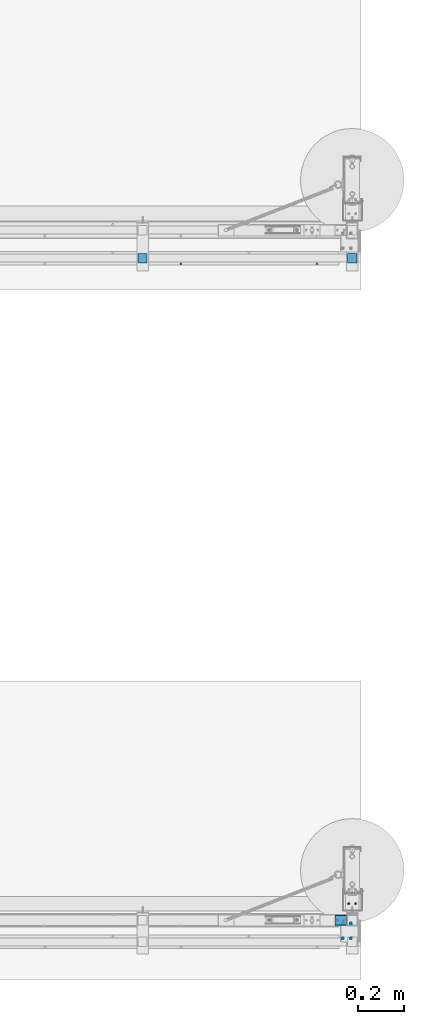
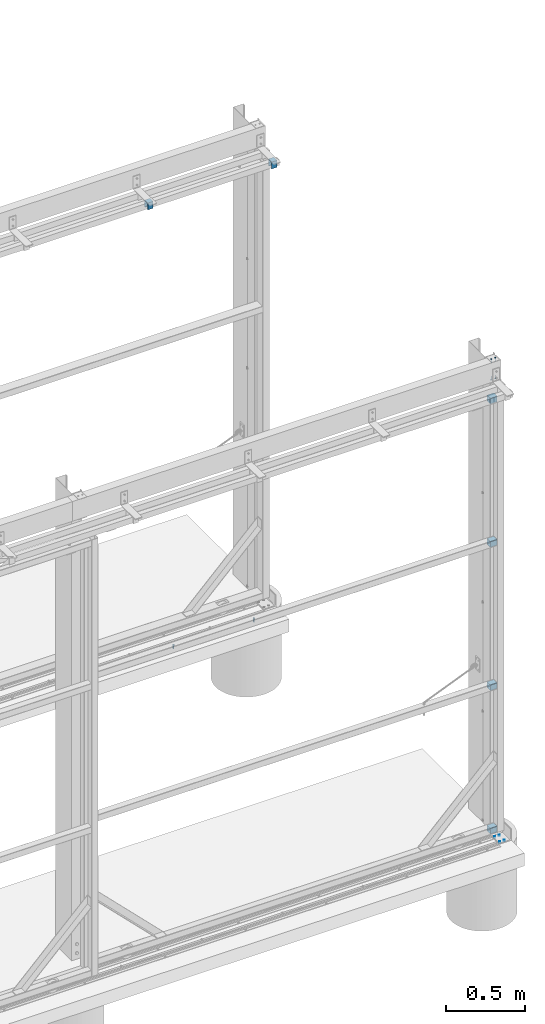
# One storey, part 65 of 91: 6 discrete accessories, 6 mechanical fasteners, 6 elements without a shape of their own.
"""IFC2X3 building model written with IfcOpenShell, lengths in millimetres."""

from ifc_helpers import new_model, si_unit, frame, origin_with_axes, origin_2d_with_axis, place, context, subcontext, project, spatial, polyline, hollow_rectangle, circle, c_section, outline, extrude, source, transform, mapped, material, type_object, element, aggregate, save


model = new_model("IFC2X3")

# Units and contexts
model_context = context("Model", 3, precision=1e-05, world=origin_with_axes())
body_context = subcontext(model_context, "Body", "Model", "MODEL_VIEW")
ifc_project = project(units=[si_unit("LENGTHUNIT", "METRE", prefix="MILLI"), si_unit("AREAUNIT", "SQUARE_METRE"), si_unit("VOLUMEUNIT", "CUBIC_METRE"), si_unit("MASSUNIT", "GRAM", prefix="KILO"), si_unit("TIMEUNIT", "SECOND"), si_unit("PLANEANGLEUNIT", "RADIAN"), si_unit("SOLIDANGLEUNIT", "STERADIAN"), si_unit("THERMODYNAMICTEMPERATUREUNIT", "DEGREE_CELSIUS"), si_unit("LUMINOUSINTENSITYUNIT", "LUMEN")], contexts=[model_context])

# Site, building, storey
site_placement = place(None, origin_with_axes())
site = spatial("IfcSite", under=ifc_project, at=site_placement, Name="Undefined", CompositionType="ELEMENT")
building_placement = place(site_placement, origin_with_axes())
building = spatial("IfcBuilding", under=site, at=building_placement, Name="Undefined", CompositionType="ELEMENT")
storey_placement = place(building_placement, origin_with_axes())
storey = spatial("IfcBuildingStorey", under=building, at=storey_placement, Name="Undefined", CompositionType="ELEMENT", Elevation=0.0)

# Assembly, mechanical fastener
assembly_1_placement = place(storey_placement, origin_with_axes())
assembly_1 = element("IfcElementAssembly", 1, at=assembly_1_placement, inside=storey, Name="DOOR STOPPER", AssemblyPlace="NOTDEFINED", PredefinedType="RIGID_FRAME")
ifc_material_1 = material(Name="TEK_11TPIM")
discrete_accessory_type_1 = type_object("IfcDiscreteAccessoryType", Name="Bolt assembly")
shared_shape_1 = source(origin_with_axes(), body_context, "Body", "SweptSolid", [
    extrude(circle(Radius=3.0, at=origin_2d_with_axis()), frame((0.0, 0.0, 0.0), z_axis=(0.0, 1.0, 0.0), x_axis=(1.0, 0.0, 0.0)), (0.0, 0.0, 1.0), 7.9),
])
mechanical_fastener_1_placement = place(assembly_1_placement, frame((-107705.84, 84632.6509765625, -49.2), z_axis=(-1.0, 0.0, 0.0), x_axis=(0.0, 1.0, 0.0)))
mechanical_fastener_1 = element("IfcMechanicalFastener", 2, at=mechanical_fastener_1_placement, type_object=discrete_accessory_type_1, material=ifc_material_1, Name="Bolt assembly", NominalDiameter=6.0, NominalLength=7.80000019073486, context=body_context, shape_type="MappedRepresentation", body=[
    mapped(shared_shape_1, transform((0.0, 0.0, 17.5))),
    mapped(shared_shape_1, transform((65.0, 0.0, 17.5))),
    mapped(shared_shape_1, transform((0.0, 0.0, -17.5))),
    mapped(shared_shape_1, transform((65.0, 0.0, -17.5))),
])
aggregate(assembly_1, [mechanical_fastener_1])

assembly_2_placement = place(storey_placement, origin_with_axes())
assembly_2 = element("IfcElementAssembly", 3, at=assembly_2_placement, inside=storey, Name="SLIDING DOOR", AssemblyPlace="NOTDEFINED", PredefinedType="RIGID_FRAME")
shared_shape_2 = source(origin_with_axes(), body_context, "Body", "SweptSolid", [
    extrude(circle(Radius=3.0, at=origin_2d_with_axis()), frame((0.0, 0.1, 0.0), z_axis=(0.0, 1.0, 0.0), x_axis=(1.0, 0.0, 0.0)), (0.0, 0.0, 1.0), 2.0),
    extrude(circle(Radius=3.0, at=origin_2d_with_axis()), frame((0.0, 2.4, 0.0), z_axis=(0.0, 1.0, 0.0), x_axis=(1.0, 0.0, 0.0)), (0.0, 0.0, 1.0), 1.7),
    extrude(outline(polyline([(4.61880215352, 0.0), (2.30940107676, 4.00000000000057), (-2.30940107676, 4.00000000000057), (-4.61880215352, 0.0), (-2.30940107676, -4.00000000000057), (2.30940107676, -4.00000000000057), (4.61880215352, 0.0)])), frame((0.0, -5.0, 0.0), z_axis=(0.0, 1.0, 0.0), x_axis=(1.0, 0.0, 0.0)), (0.0, 0.0, 1.0), 5.0),
    extrude(circle(Radius=3.0, at=origin_2d_with_axis()), frame((0.0, 0.0, 0.0), z_axis=(0.0, 1.0, 0.0), x_axis=(1.0, 0.0, 0.0)), (0.0, 0.0, 1.0), 25.0),
    extrude(circle(Radius=3.0, at=origin_2d_with_axis()), frame((0.0, 4.10000002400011, 0.0), z_axis=(0.0, 1.0, 0.0), x_axis=(1.0, 0.0, 0.0)), (0.0, 0.0, 1.0), 0.1),
    extrude(outline(polyline([(3.46410161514, 0.0), (1.73205080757, 3.00000000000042), (-1.73205080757, 3.00000000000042), (-3.46410161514, 0.0), (-1.73205080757, -3.00000000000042), (1.73205080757, -3.00000000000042), (3.46410161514, 0.0)])), frame((0.0, 4.20000002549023, 0.0), z_axis=(0.0, 1.0, 0.0), x_axis=(1.0, 0.0, 0.0)), (0.0, 0.0, 1.0), 0.1),
])
mechanical_fastener_2_placement = place(assembly_2_placement, frame((-107748.34, 84712.15, 3326.0), z_axis=(0.0, -1.0, 0.0), x_axis=(1.0, 0.0, 0.0)))
mechanical_fastener_2 = element("IfcMechanicalFastener", 4, at=mechanical_fastener_2_placement, type_object=discrete_accessory_type_1, material=ifc_material_1, Name="Bolt assembly", NominalDiameter=6.0, NominalLength=25.0, context=body_context, shape_type="MappedRepresentation", body=[
    mapped(shared_shape_2, transform((0.0, 0.0, 0.0))),
    mapped(shared_shape_2, transform((30.0, 0.0, 0.0))),
])

# Assembly, mechanical fasteners
assembly_3_placement = place(storey_placement, origin_with_axes())
assembly_3 = element("IfcElementAssembly", 5, at=assembly_3_placement, inside=storey, Name="DOOR TRACK", AssemblyPlace="NOTDEFINED", PredefinedType="RIGID_FRAME")
ifc_material_2 = material(Name="TEK_10TPII")
shared_shape_3 = source(origin_with_axes(), body_context, "Body", "SweptSolid", [
    extrude(circle(Radius=4.07999992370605, at=origin_2d_with_axis()), frame((0.0, 0.0, 0.0), z_axis=(0.0, 1.0, 0.0), x_axis=(1.0, 0.0, 0.0)), (0.0, 0.0, 1.0), 3.1),
    extrude(outline(polyline([(4.61880215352, 0.0), (2.30940107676, 4.00000000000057), (-2.30940107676, 4.00000000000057), (-4.61880215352, 0.0), (-2.30940107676, -4.00000000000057), (2.30940107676, -4.00000000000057), (4.61880215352, 0.0)])), frame((0.0, -5.0, 0.0), z_axis=(0.0, 1.0, 0.0), x_axis=(1.0, 0.0, 0.0)), (0.0, 0.0, 1.0), 5.0),
    extrude(circle(Radius=3.07999992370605, at=origin_2d_with_axis()), frame((0.0, 0.0, 0.0), z_axis=(0.0, 1.0, 0.0), x_axis=(1.0, 0.0, 0.0)), (0.0, 0.0, 1.0), 25.0),
    extrude(circle(Radius=3.0, at=origin_2d_with_axis()), frame((0.0, 3.0, 0.0), z_axis=(0.0, 1.0, 0.0), x_axis=(1.0, 0.0, 0.0)), (0.0, 0.0, 1.0), 0.1),
    extrude(outline(polyline([(3.46410161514, 0.0), (1.73205080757, 3.00000000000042), (-1.73205080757, 3.00000000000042), (-3.46410161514, 0.0), (-1.73205080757, -3.00000000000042), (1.73205080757, -3.00000000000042), (3.46410161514, 0.0)])), frame((0.0, 3.10000000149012, 0.0), z_axis=(0.0, 1.0, 0.0), x_axis=(1.0, 0.0, 0.0)), (0.0, 0.0, 1.0), 0.1),
])
mechanical_fastener_3_placement = place(assembly_3_placement, frame((-107836.84, 87565.151953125, -54.0), z_axis=(0.0, 1.0, 0.0), x_axis=(1.0, 0.0, 0.0)))
mechanical_fastener_3 = element("IfcMechanicalFastener", 6, at=mechanical_fastener_3_placement, type_object=discrete_accessory_type_1, material=ifc_material_2, Name="Bolt assembly", NominalDiameter=6.15999984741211, NominalLength=25.0, context=body_context, shape_type="MappedRepresentation", body=[
    mapped(shared_shape_3, transform((0.0, 0.0, 0.0))),
])
mechanical_fastener_4_placement = place(assembly_3_placement, frame((-108428.64, 87565.151953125, -54.0), z_axis=(0.0, 1.0, 0.0), x_axis=(1.0, 0.0, 0.0)))
mechanical_fastener_4 = element("IfcMechanicalFastener", 7, at=mechanical_fastener_4_placement, type_object=discrete_accessory_type_1, material=ifc_material_2, Name="Bolt assembly", NominalDiameter=6.15999984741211, NominalLength=25.0, context=body_context, shape_type="MappedRepresentation", body=[
    mapped(shared_shape_3, transform((0.0, 0.0, 0.0))),
])
aggregate(assembly_3, [mechanical_fastener_3, mechanical_fastener_4])

assembly_4_placement = place(storey_placement, origin_with_axes())
assembly_4 = element("IfcElementAssembly", 8, at=assembly_4_placement, inside=storey, Name="FASCIA BRACKET", AssemblyPlace="NOTDEFINED", PredefinedType="RIGID_FRAME")
ifc_material_3 = material(Name="TEK_16TPIM")
shared_shape_4 = source(origin_with_axes(), body_context, "Body", "SweptSolid", [
    extrude(circle(Radius=3.5, at=origin_2d_with_axis()), frame((0.0, -2.59999694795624, 0.0), z_axis=(0.0, 1.0, 0.0), x_axis=(1.0, 0.0, 0.0)), (0.0, 0.0, 1.0), 1.7),
    extrude(outline(polyline([(4.04145188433, 0.0), (2.020725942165, 3.5000000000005), (-2.020725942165, 3.5000000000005), (-4.04145188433, 0.0), (-2.020725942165, -3.5000000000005), (2.020725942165, -3.5000000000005), (4.04145188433, 0.0)])), frame((0.0, -7.69999694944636, 0.0), z_axis=(0.0, 1.0, 0.0), x_axis=(1.0, 0.0, 0.0)), (0.0, 0.0, 1.0), 5.0),
    extrude(circle(Radius=2.5, at=origin_2d_with_axis()), frame((0.0, -2.69999694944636, 0.0), z_axis=(0.0, 1.0, 0.0), x_axis=(1.0, 0.0, 0.0)), (0.0, 0.0, 1.0), 25.0),
    extrude(circle(Radius=2.5, at=origin_2d_with_axis()), frame((0.0, -2.69999694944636, 0.0), z_axis=(0.0, 1.0, 0.0), x_axis=(1.0, 0.0, 0.0)), (0.0, 0.0, 1.0), 0.1),
    extrude(circle(Radius=2.5, at=origin_2d_with_axis()), frame((0.0, -1.0, 0.0), z_axis=(0.0, 1.0, 0.0), x_axis=(1.0, 0.0, 0.0)), (0.0, 0.0, 1.0), 0.1),
    extrude(outline(polyline([(2.88675134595, 0.0), (1.443375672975, 2.50000000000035), (-1.443375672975, 2.50000000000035), (-2.88675134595, 0.0), (-1.443375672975, -2.50000000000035), (1.443375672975, -2.50000000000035), (2.88675134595, 0.0)])), frame((0.0, -0.899996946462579, 0.0), z_axis=(0.0, 1.0, 0.0), x_axis=(1.0, 0.0, 0.0)), (0.0, 0.0, 1.0), 0.1),
])
mechanical_fastener_5_placement = place(assembly_4_placement, frame((-107683.339999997, 84784.1514572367, 3444.01721782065), z_axis=(-1.0, 0.0, 0.0), x_axis=(0.0, -1.0, 0.0)))
mechanical_fastener_5 = element("IfcMechanicalFastener", 9, at=mechanical_fastener_5_placement, type_object=discrete_accessory_type_1, material=ifc_material_3, Name="Bolt assembly", NominalDiameter=5.0, NominalLength=25.0, context=body_context, shape_type="MappedRepresentation", body=[
    mapped(shared_shape_4, transform((0.0, 0.0, -15.0))),
    mapped(shared_shape_4, transform((0.0, 0.0, 15.0))),
])
mechanical_fastener_6_placement = place(assembly_4_placement, frame((-107683.339999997, 84784.1514572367, 3596.01721782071), z_axis=(1.0, 0.0, 0.0), x_axis=(0.0, -1.0, 0.0)))
mechanical_fastener_6 = element("IfcMechanicalFastener", 10, at=mechanical_fastener_6_placement, type_object=discrete_accessory_type_1, material=ifc_material_3, Name="Bolt assembly", NominalDiameter=5.0, NominalLength=25.0, context=body_context, shape_type="MappedRepresentation", body=[
    mapped(shared_shape_4, transform((0.0, 0.0, -15.0))),
    mapped(shared_shape_4, transform((0.0, 0.0, 15.0))),
])
aggregate(assembly_4, [mechanical_fastener_5, mechanical_fastener_6])

# Assembly, discrete accessory
assembly_5_placement = place(storey_placement, origin_with_axes())
assembly_5 = element("IfcElementAssembly", 11, at=assembly_5_placement, inside=storey, Name="DOOR BRACKET", AssemblyPlace="NOTDEFINED", PredefinedType="RIGID_FRAME")
ifc_material_4 = material(Name="STEEL/250")
discrete_accessory_type_2 = type_object("IfcDiscreteAccessoryType", Name="SLIDING DOOR BRACKET")
discrete_accessory_1_placement = place(assembly_5_placement, frame((-108614.59, 87590.15, 3417.5), z_axis=(0.0, -1.0, 0.0), x_axis=(1.0, 0.0, 0.0)))
discrete_accessory_1 = element("IfcDiscreteAccessory", 12, at=discrete_accessory_1_placement, type_object=discrete_accessory_type_2, material=ifc_material_4, Name="SLIDING DOOR BRACKET", ObjectType="CC41-1.5-7-53", context=body_context, shape_type="SweptSolid", body=[
    extrude(c_section(Depth=41.0, Width=53.0, WallThickness=1.5, Girth=7.0, at=origin_2d_with_axis()), frame((40.0, 0.0, 0.0), z_axis=(-1.0, 0.0, 0.0), x_axis=(0.0, -1.0, 0.0)), (0.0, 0.0, 1.0), 40.0),
])
aggregate(assembly_5, [discrete_accessory_1])

assembly_6_placement = place(storey_placement, origin_with_axes())
assembly_6 = element("IfcElementAssembly", 13, at=assembly_6_placement, inside=storey, Name="DOOR BRACKET", AssemblyPlace="NOTDEFINED", PredefinedType="RIGID_FRAME")
discrete_accessory_2_placement = place(assembly_6_placement, frame((-107703.34, 87590.15, 3417.5), z_axis=(0.0, -1.0, 0.0), x_axis=(1.0, 0.0, 0.0)))
discrete_accessory_2 = element("IfcDiscreteAccessory", 14, at=discrete_accessory_2_placement, type_object=discrete_accessory_type_2, material=ifc_material_4, Name="SLIDING DOOR BRACKET", ObjectType="CC41-1.5-7-53", context=body_context, shape_type="SweptSolid", body=[
    extrude(c_section(Depth=41.0, Width=53.0, WallThickness=1.5, Girth=7.0, at=origin_2d_with_axis()), frame((40.0, 0.0, 0.0), z_axis=(-1.0, 0.0, 0.0), x_axis=(0.0, -1.0, 0.0)), (0.0, 0.0, 1.0), 40.0),
])
aggregate(assembly_6, [discrete_accessory_2])

# Discrete accessory
ifc_material_5 = material(Name="STEEL/300")
discrete_accessory_type_3 = type_object("IfcDiscreteAccessoryType", Name="SLIDING DOOR")
discrete_accessory_3_placement = place(assembly_2_placement, frame((-107708.34, 84712.15, 3351.0), z_axis=(0.0, -1.0, 0.0), x_axis=(-1.0, 0.0, 0.0)))
discrete_accessory_3 = element("IfcDiscreteAccessory", 15, at=discrete_accessory_3_placement, type_object=discrete_accessory_type_3, material=ifc_material_5, Name="SLIDING DOOR", ObjectType="SHS:45X45X1.6", context=body_context, shape_type="SweptSolid", body=[
    extrude(hollow_rectangle(XDim=45.0, YDim=45.0, WallThickness=1.600000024, InnerFilletRadius=1.600000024, OuterFilletRadius=3.200000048, at=origin_2d_with_axis()), frame((50.0, 0.0, 0.0), z_axis=(-1.0, 0.0, 0.0), x_axis=(0.0, -1.0, 0.0)), (0.0, 0.0, 1.0), 50.0),
])

discrete_accessory_4_placement = place(assembly_2_placement, frame((-107708.34, 84712.15, 2236.66), z_axis=(0.0, -1.0, 0.0), x_axis=(-1.0, 0.0, 0.0)))
discrete_accessory_4 = element("IfcDiscreteAccessory", 16, at=discrete_accessory_4_placement, type_object=discrete_accessory_type_3, material=ifc_material_5, Name="SLIDING DOOR", ObjectType="SHS:45X45X1.6", context=body_context, shape_type="SweptSolid", body=[
    extrude(hollow_rectangle(XDim=45.0, YDim=45.0, WallThickness=1.600000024, InnerFilletRadius=1.600000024, OuterFilletRadius=3.200000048, at=origin_2d_with_axis()), frame((50.0, 0.0, 0.0), z_axis=(-1.0, 0.0, 0.0), x_axis=(0.0, -1.0, 0.0)), (0.0, 0.0, 1.0), 50.0),
])

discrete_accessory_5_placement = place(assembly_2_placement, frame((-107708.34, 84712.15, 1122.34), z_axis=(0.0, -1.0, 0.0), x_axis=(-1.0, 0.0, 0.0)))
discrete_accessory_5 = element("IfcDiscreteAccessory", 17, at=discrete_accessory_5_placement, type_object=discrete_accessory_type_3, material=ifc_material_5, Name="SLIDING DOOR", ObjectType="SHS:45X45X1.6", context=body_context, shape_type="SweptSolid", body=[
    extrude(hollow_rectangle(XDim=45.0, YDim=45.0, WallThickness=1.600000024, InnerFilletRadius=1.600000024, OuterFilletRadius=3.200000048, at=origin_2d_with_axis()), frame((50.0, 0.0, 0.0), z_axis=(-1.0, 0.0, 0.0), x_axis=(0.0, -1.0, 0.0)), (0.0, 0.0, 1.0), 50.0),
])

discrete_accessory_6_placement = place(assembly_2_placement, frame((-107708.34, 84712.15, 8.0), z_axis=(0.0, -1.0, 0.0), x_axis=(-1.0, 0.0, 0.0)))
discrete_accessory_6 = element("IfcDiscreteAccessory", 18, at=discrete_accessory_6_placement, type_object=discrete_accessory_type_3, material=ifc_material_5, Name="SLIDING DOOR", ObjectType="SHS:45X45X1.6", context=body_context, shape_type="SweptSolid", body=[
    extrude(hollow_rectangle(XDim=45.0, YDim=45.0, WallThickness=1.600000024, InnerFilletRadius=1.600000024, OuterFilletRadius=3.200000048, at=origin_2d_with_axis()), frame((50.0, 0.0, 0.0), z_axis=(-1.0, 0.0, 0.0), x_axis=(0.0, -1.0, 0.0)), (0.0, 0.0, 1.0), 50.0),
])

aggregate(assembly_2, [mechanical_fastener_2, discrete_accessory_3, discrete_accessory_4, discrete_accessory_5, discrete_accessory_6])

save(model, "model.ifc")
